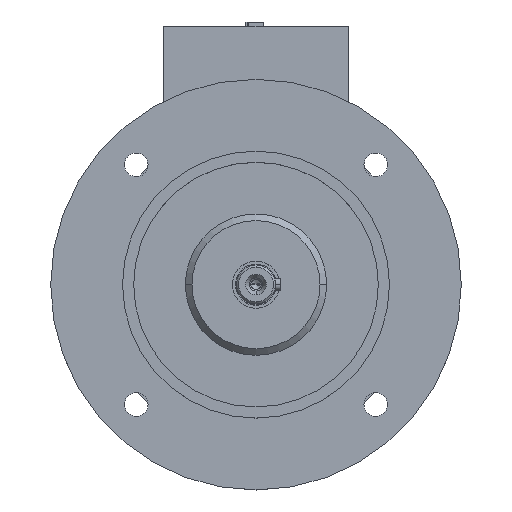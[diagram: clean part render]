
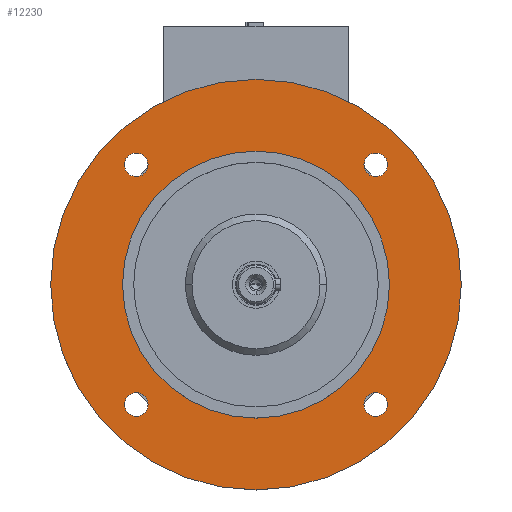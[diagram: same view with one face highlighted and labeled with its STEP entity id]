
A CAD part, top view. The second image highlights one B-rep face of the part: STEP entity #12230.
In plain terms, the highlighted planar face has unit normal (0, 0, 1).
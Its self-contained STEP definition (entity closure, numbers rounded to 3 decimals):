
#299 = ORIENTED_EDGE ( 'NONE', *, *, #12786, .T. ) ;
#376 = DIRECTION ( 'NONE',  ( -1., 0., 0. ) ) ;
#399 = EDGE_LOOP ( 'NONE', ( #13880, #4459 ) ) ;
#418 = VERTEX_POINT ( 'NONE', #5046 ) ;
#422 = DIRECTION ( 'NONE',  ( 0., 1., 0. ) ) ;
#468 = VERTEX_POINT ( 'NONE', #1653 ) ;
#590 = EDGE_CURVE ( 'NONE', #2866, #13067, #6866, .T. ) ;
#877 = AXIS2_PLACEMENT_3D ( 'NONE', #6357, #12347, #422 ) ;
#1149 = EDGE_LOOP ( 'NONE', ( #5656, #10906 ) ) ;
#1248 = EDGE_CURVE ( 'NONE', #7449, #8137, #11688, .T. ) ;
#1563 = CARTESIAN_POINT ( 'NONE',  ( -58.336, 58.336, 100. ) ) ;
#1577 = FACE_BOUND ( 'NONE', #7439, .T. ) ;
#1653 = CARTESIAN_POINT ( 'NONE',  ( -64.086, 58.336, 100. ) ) ;
#1870 = CARTESIAN_POINT ( 'NONE',  ( 0., 0., 100. ) ) ;
#2056 = ORIENTED_EDGE ( 'NONE', *, *, #14752, .F. ) ;
#2399 = AXIS2_PLACEMENT_3D ( 'NONE', #1563, #13437, #376 ) ;
#2721 = CARTESIAN_POINT ( 'NONE',  ( 52.586, 58.336, 100. ) ) ;
#2802 = VERTEX_POINT ( 'NONE', #12532 ) ;
#2842 = DIRECTION ( 'NONE',  ( -1., 0., 0. ) ) ;
#2866 = VERTEX_POINT ( 'NONE', #4232 ) ;
#2933 = AXIS2_PLACEMENT_3D ( 'NONE', #5212, #3980, #2842 ) ;
#3107 = AXIS2_PLACEMENT_3D ( 'NONE', #1870, #8870, #4149 ) ;
#3124 = EDGE_LOOP ( 'NONE', ( #299, #4375 ) ) ;
#3549 = DIRECTION ( 'NONE',  ( 0., 0., -1. ) ) ;
#3552 = AXIS2_PLACEMENT_3D ( 'NONE', #10873, #9663, #4047 ) ;
#3773 = AXIS2_PLACEMENT_3D ( 'NONE', #10092, #14857, #9067 ) ;
#3918 = EDGE_CURVE ( 'NONE', #4590, #8846, #9965, .T. ) ;
#3980 = DIRECTION ( 'NONE',  ( 0., 0., -1. ) ) ;
#4024 = AXIS2_PLACEMENT_3D ( 'NONE', #10450, #4591, #8083 ) ;
#4047 = DIRECTION ( 'NONE',  ( -1., 0., 0. ) ) ;
#4088 = AXIS2_PLACEMENT_3D ( 'NONE', #7738, #7524, #4154 ) ;
#4122 = ORIENTED_EDGE ( 'NONE', *, *, #6684, .F. ) ;
#4149 = DIRECTION ( 'NONE',  ( -1., 0., 0. ) ) ;
#4154 = DIRECTION ( 'NONE',  ( -1., 0., 0. ) ) ;
#4232 = CARTESIAN_POINT ( 'NONE',  ( -64.086, -58.336, 100. ) ) ;
#4285 = ORIENTED_EDGE ( 'NONE', *, *, #590, .F. ) ;
#4340 = FACE_BOUND ( 'NONE', #8568, .T. ) ;
#4375 = ORIENTED_EDGE ( 'NONE', *, *, #1248, .T. ) ;
#4459 = ORIENTED_EDGE ( 'NONE', *, *, #14883, .F. ) ;
#4512 = CIRCLE ( 'NONE', #2933, 100. ) ;
#4590 = VERTEX_POINT ( 'NONE', #2721 ) ;
#4591 = DIRECTION ( 'NONE',  ( 0., 0., 1. ) ) ;
#4647 = DIRECTION ( 'NONE',  ( 0., 0., 1. ) ) ;
#5046 = CARTESIAN_POINT ( 'NONE',  ( 52.586, -58.336, 100. ) ) ;
#5210 = CIRCLE ( 'NONE', #3107, 100. ) ;
#5212 = CARTESIAN_POINT ( 'NONE',  ( 0., 0., 100. ) ) ;
#5656 = ORIENTED_EDGE ( 'NONE', *, *, #6492, .F. ) ;
#5778 = CARTESIAN_POINT ( 'NONE',  ( 58.336, 58.336, 100. ) ) ;
#5832 = VERTEX_POINT ( 'NONE', #8097 ) ;
#5861 = CARTESIAN_POINT ( 'NONE',  ( 65., 0., 100. ) ) ;
#6345 = CARTESIAN_POINT ( 'NONE',  ( -58.336, -58.336, 100. ) ) ;
#6357 = CARTESIAN_POINT ( 'NONE',  ( 58.336, 58.336, 100. ) ) ;
#6492 = EDGE_CURVE ( 'NONE', #8846, #4590, #14755, .T. ) ;
#6652 = ORIENTED_EDGE ( 'NONE', *, *, #14547, .F. ) ;
#6684 = EDGE_CURVE ( 'NONE', #9718, #418, #8238, .T. ) ;
#6866 = CIRCLE ( 'NONE', #15089, 5.75 ) ;
#7190 = DIRECTION ( 'NONE',  ( 0., 1., 0. ) ) ;
#7354 = EDGE_LOOP ( 'NONE', ( #14403, #4285 ) ) ;
#7439 = EDGE_LOOP ( 'NONE', ( #4122, #6652 ) ) ;
#7449 = VERTEX_POINT ( 'NONE', #5861 ) ;
#7524 = DIRECTION ( 'NONE',  ( 0., 0., 1. ) ) ;
#7738 = CARTESIAN_POINT ( 'NONE',  ( -58.336, 58.336, 100. ) ) ;
#7822 = CIRCLE ( 'NONE', #10330, 5.75 ) ;
#7864 = CIRCLE ( 'NONE', #8987, 5.75 ) ;
#8083 = DIRECTION ( 'NONE',  ( 1., 0., 0. ) ) ;
#8097 = CARTESIAN_POINT ( 'NONE',  ( 100., 0., 100. ) ) ;
#8137 = VERTEX_POINT ( 'NONE', #12195 ) ;
#8138 = PLANE ( 'NONE',  #4024 ) ;
#8238 = CIRCLE ( 'NONE', #3773, 5.75 ) ;
#8316 = CARTESIAN_POINT ( 'NONE',  ( 0., 0., 100. ) ) ;
#8568 = EDGE_LOOP ( 'NONE', ( #2056, #14519 ) ) ;
#8741 = DIRECTION ( 'NONE',  ( 0., -1., 0. ) ) ;
#8832 = CARTESIAN_POINT ( 'NONE',  ( -52.586, -58.336, 100. ) ) ;
#8846 = VERTEX_POINT ( 'NONE', #9234 ) ;
#8870 = DIRECTION ( 'NONE',  ( 0., 0., -1. ) ) ;
#8987 = AXIS2_PLACEMENT_3D ( 'NONE', #6345, #13425, #8741 ) ;
#8995 = DIRECTION ( 'NONE',  ( 0., 0., 1. ) ) ;
#9067 = DIRECTION ( 'NONE',  ( 1., 0., 0. ) ) ;
#9234 = CARTESIAN_POINT ( 'NONE',  ( 64.086, 58.336, 100. ) ) ;
#9386 = DIRECTION ( 'NONE',  ( 1., 0., 0. ) ) ;
#9663 = DIRECTION ( 'NONE',  ( 0., 0., -1. ) ) ;
#9716 = FACE_OUTER_BOUND ( 'NONE', #399, .T. ) ;
#9718 = VERTEX_POINT ( 'NONE', #13193 ) ;
#9965 = CIRCLE ( 'NONE', #10036, 5.75 ) ;
#10036 = AXIS2_PLACEMENT_3D ( 'NONE', #5778, #11759, #7190 ) ;
#10092 = CARTESIAN_POINT ( 'NONE',  ( 58.336, -58.336, 100. ) ) ;
#10226 = CIRCLE ( 'NONE', #4088, 5.75 ) ;
#10330 = AXIS2_PLACEMENT_3D ( 'NONE', #10527, #4647, #9386 ) ;
#10450 = CARTESIAN_POINT ( 'NONE',  ( 0., 100., 100. ) ) ;
#10527 = CARTESIAN_POINT ( 'NONE',  ( 58.336, -58.336, 100. ) ) ;
#10873 = CARTESIAN_POINT ( 'NONE',  ( 0., 0., 100. ) ) ;
#10906 = ORIENTED_EDGE ( 'NONE', *, *, #3918, .F. ) ;
#11688 = CIRCLE ( 'NONE', #3552, 65. ) ;
#11759 = DIRECTION ( 'NONE',  ( 0., 0., 1. ) ) ;
#12117 = CIRCLE ( 'NONE', #15117, 65. ) ;
#12195 = CARTESIAN_POINT ( 'NONE',  ( -65., 0., 100. ) ) ;
#12230 = ADVANCED_FACE ( 'NONE', ( #14202, #4340, #14956, #1577, #12704, #9716 ), #8138, .T. ) ;
#12347 = DIRECTION ( 'NONE',  ( 0., 0., 1. ) ) ;
#12415 = EDGE_CURVE ( 'NONE', #13067, #2866, #7864, .T. ) ;
#12521 = EDGE_CURVE ( 'NONE', #2802, #5832, #4512, .T. ) ;
#12532 = CARTESIAN_POINT ( 'NONE',  ( -100., 0., 100. ) ) ;
#12704 = FACE_BOUND ( 'NONE', #3124, .T. ) ;
#12786 = EDGE_CURVE ( 'NONE', #8137, #7449, #12117, .T. ) ;
#13041 = DIRECTION ( 'NONE',  ( -1., 0., 0. ) ) ;
#13067 = VERTEX_POINT ( 'NONE', #8832 ) ;
#13193 = CARTESIAN_POINT ( 'NONE',  ( 64.086, -58.336, 100. ) ) ;
#13200 = CIRCLE ( 'NONE', #2399, 5.75 ) ;
#13425 = DIRECTION ( 'NONE',  ( 0., 0., 1. ) ) ;
#13437 = DIRECTION ( 'NONE',  ( 0., 0., 1. ) ) ;
#13493 = CARTESIAN_POINT ( 'NONE',  ( -52.586, 58.336, 100. ) ) ;
#13573 = EDGE_CURVE ( 'NONE', #468, #14876, #10226, .T. ) ;
#13825 = DIRECTION ( 'NONE',  ( 0., -1., 0. ) ) ;
#13880 = ORIENTED_EDGE ( 'NONE', *, *, #12521, .F. ) ;
#14202 = FACE_BOUND ( 'NONE', #7354, .T. ) ;
#14403 = ORIENTED_EDGE ( 'NONE', *, *, #12415, .F. ) ;
#14519 = ORIENTED_EDGE ( 'NONE', *, *, #13573, .F. ) ;
#14547 = EDGE_CURVE ( 'NONE', #418, #9718, #7822, .T. ) ;
#14752 = EDGE_CURVE ( 'NONE', #14876, #468, #13200, .T. ) ;
#14755 = CIRCLE ( 'NONE', #877, 5.75 ) ;
#14857 = DIRECTION ( 'NONE',  ( 0., 0., 1. ) ) ;
#14876 = VERTEX_POINT ( 'NONE', #13493 ) ;
#14883 = EDGE_CURVE ( 'NONE', #5832, #2802, #5210, .T. ) ;
#14956 = FACE_BOUND ( 'NONE', #1149, .T. ) ;
#14984 = CARTESIAN_POINT ( 'NONE',  ( -58.336, -58.336, 100. ) ) ;
#15089 = AXIS2_PLACEMENT_3D ( 'NONE', #14984, #8995, #13825 ) ;
#15117 = AXIS2_PLACEMENT_3D ( 'NONE', #8316, #3549, #13041 ) ;
